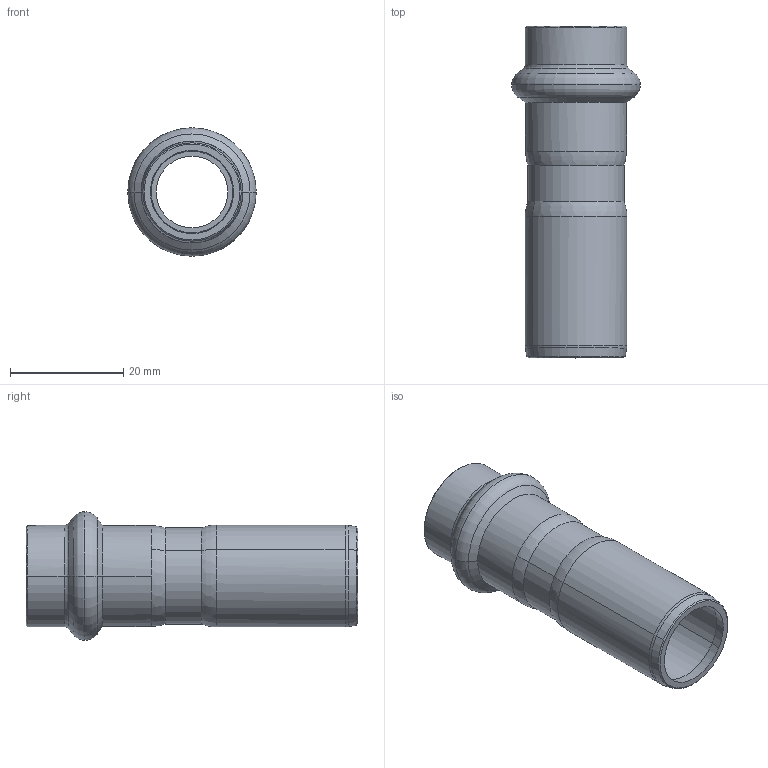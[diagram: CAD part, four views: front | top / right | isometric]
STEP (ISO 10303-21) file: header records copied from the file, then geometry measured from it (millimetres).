
FILE_DESCRIPTION(('CoCreate Modeling STEP Export'),'2;1');
FILE_NAME('8243VW1815.stp','2013-03-05T 9:21:28',(''),(''),'CoCreate Modeling STEP processor for AP214 (Solid Model)','CoCreate Modeling 17.00A 17-Jun-2010 (C) Parametric Technology GmbH','');
FILE_SCHEMA(('AUTOMOTIVE_DESIGN { 1 0 10303 214 1 1 1 1 }'));
Length unit declared in the file: millimetre
Products named in the file (1): 8243VW1815
Bounding box: 22.69 x 58.61 x 22.69 mm (x, y, z)
Volume: 4650.7 mm3; surface area: 6497.3 mm2
Topology: 1 solids, 1 shells, 60 faces, 131 edges, 75 vertices
Faces by surface type: torus 22, cylinder 18, cone 16, plane 4
Entity records: 1322 total; most frequent: ORIENTED_EDGE 262, DIRECTION 206, CARTESIAN_POINT 195, EDGE_CURVE 131, AXIS2_PLACEMENT_3D 86, VERTEX_POINT 75, EDGE_LOOP 64, FACE_OUTER_BOUND 60
